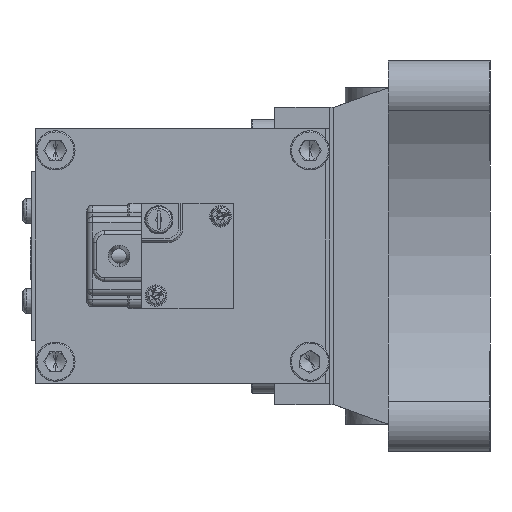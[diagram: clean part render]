
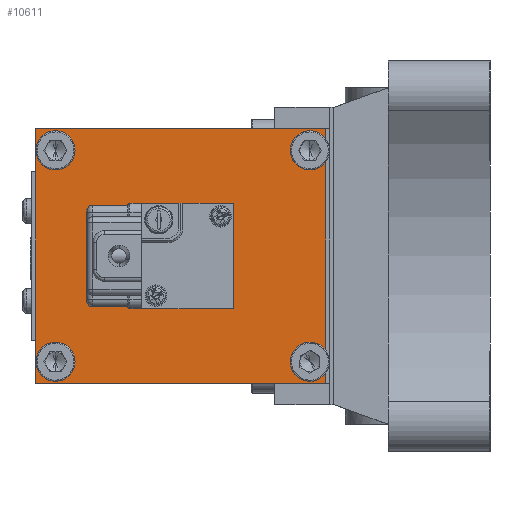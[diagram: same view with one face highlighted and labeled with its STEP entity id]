
A CAD part, left-side view. The second image highlights one B-rep face of the part: STEP entity #10611.
In plain terms, the highlighted planar face has unit normal (-1, 0, 0) as drawn and (1, 0, 0) by its records, which use the part's own axes.
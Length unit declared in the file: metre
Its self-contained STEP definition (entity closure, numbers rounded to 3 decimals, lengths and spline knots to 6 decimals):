
#427 = ORIENTED_EDGE ( 'NONE', *, *, #1078, .F. ) ;
#489 = CARTESIAN_POINT ( 'NONE',  ( 0.08, 0.002, 0. ) ) ;
#536 = DIRECTION ( 'NONE',  ( 0., 0., -1. ) ) ;
#560 = VERTEX_POINT ( 'NONE', #2664 ) ;
#745 = EDGE_CURVE ( 'NONE', #2308, #560, #5761, .T. ) ;
#808 = VERTEX_POINT ( 'NONE', #10055 ) ;
#848 = ORIENTED_EDGE ( 'NONE', *, *, #15848, .F. ) ;
#881 = CARTESIAN_POINT ( 'NONE',  ( 0.08, 0.002, -0.0325 ) ) ;
#1027 = CARTESIAN_POINT ( 'NONE',  ( 0.08, 0.071, 0.027 ) ) ;
#1078 = EDGE_CURVE ( 'NONE', #12030, #8939, #1955, .T. ) ;
#1110 = VERTEX_POINT ( 'NONE', #7494 ) ;
#1210 = CIRCLE ( 'NONE', #7725, 0.003 ) ;
#1453 = VERTEX_POINT ( 'NONE', #5061 ) ;
#1556 = ORIENTED_EDGE ( 'NONE', *, *, #15389, .F. ) ;
#1857 = VERTEX_POINT ( 'NONE', #8028 ) ;
#1955 = LINE ( 'NONE', #7438, #12715 ) ;
#2135 = AXIS2_PLACEMENT_3D ( 'NONE', #881, #10337, #2202 ) ;
#2202 = DIRECTION ( 'NONE',  ( 0., 0., 1. ) ) ;
#2236 = AXIS2_PLACEMENT_3D ( 'NONE', #15564, #6185, #14200 ) ;
#2308 = VERTEX_POINT ( 'NONE', #6946 ) ;
#2356 = DIRECTION ( 'NONE',  ( 0., 0., -1. ) ) ;
#2664 = CARTESIAN_POINT ( 'NONE',  ( 0.08, 0.006, 0.024 ) ) ;
#2709 = AXIS2_PLACEMENT_3D ( 'NONE', #12986, #4897, #14306 ) ;
#2860 = AXIS2_PLACEMENT_3D ( 'NONE', #15136, #7113, #16503 ) ;
#2898 = LINE ( 'NONE', #489, #16819 ) ;
#3168 = CARTESIAN_POINT ( 'NONE',  ( 0.08, 0.071, 0.027 ) ) ;
#3308 = DIRECTION ( 'NONE',  ( 0., -1., 0. ) ) ;
#3393 = CIRCLE ( 'NONE', #2236, 0.003 ) ;
#3756 = FACE_BOUND ( 'NONE', #7129, .T. ) ;
#3916 = ORIENTED_EDGE ( 'NONE', *, *, #6422, .F. ) ;
#4140 = VERTEX_POINT ( 'NONE', #11885 ) ;
#4229 = EDGE_CURVE ( 'NONE', #4140, #9016, #2898, .T. ) ;
#4509 = DIRECTION ( 'NONE',  ( 0., 0., -1. ) ) ;
#4678 = DIRECTION ( 'NONE',  ( 0., 0., -1. ) ) ;
#4895 = CARTESIAN_POINT ( 'NONE',  ( 0.08, 0.071, -0.027 ) ) ;
#4897 = DIRECTION ( 'NONE',  ( 1., 0., 0. ) ) ;
#4959 = VECTOR ( 'NONE', #3308, 1. ) ;
#5061 = CARTESIAN_POINT ( 'NONE',  ( 0.08, 0.071, -0.024 ) ) ;
#5174 = ORIENTED_EDGE ( 'NONE', *, *, #745, .F. ) ;
#5290 = DIRECTION ( 'NONE',  ( 1., 0., 0. ) ) ;
#5388 = ORIENTED_EDGE ( 'NONE', *, *, #12594, .F. ) ;
#5761 = CIRCLE ( 'NONE', #2860, 0.003 ) ;
#6185 = DIRECTION ( 'NONE',  ( 1., 0., 0. ) ) ;
#6279 = DIRECTION ( 'NONE',  ( 0., 0., -1. ) ) ;
#6422 = EDGE_CURVE ( 'NONE', #14245, #808, #3393, .T. ) ;
#6939 = FACE_OUTER_BOUND ( 'NONE', #8690, .T. ) ;
#6946 = CARTESIAN_POINT ( 'NONE',  ( 0.08, 0.006, 0.03 ) ) ;
#7003 = CIRCLE ( 'NONE', #8231, 0.003 ) ;
#7113 = DIRECTION ( 'NONE',  ( 1., 0., 0. ) ) ;
#7129 = EDGE_LOOP ( 'NONE', ( #848, #1556 ) ) ;
#7387 = FACE_BOUND ( 'NONE', #10588, .T. ) ;
#7438 = CARTESIAN_POINT ( 'NONE',  ( 0.08, 0.076, 0. ) ) ;
#7494 = CARTESIAN_POINT ( 'NONE',  ( 0.08, 0.071, 0.03 ) ) ;
#7522 = ORIENTED_EDGE ( 'NONE', *, *, #10951, .F. ) ;
#7721 = EDGE_LOOP ( 'NONE', ( #3916, #11402 ) ) ;
#7725 = AXIS2_PLACEMENT_3D ( 'NONE', #13348, #5290, #14669 ) ;
#7755 = CARTESIAN_POINT ( 'NONE',  ( 0.08, 0.002, 0.0325 ) ) ;
#8028 = CARTESIAN_POINT ( 'NONE',  ( 0.08, 0.071, 0.024 ) ) ;
#8177 = AXIS2_PLACEMENT_3D ( 'NONE', #16642, #8663, #536 ) ;
#8231 = AXIS2_PLACEMENT_3D ( 'NONE', #4895, #14301, #6279 ) ;
#8416 = VECTOR ( 'NONE', #14429, 1. ) ;
#8641 = ORIENTED_EDGE ( 'NONE', *, *, #4229, .F. ) ;
#8663 = DIRECTION ( 'NONE',  ( 1., 0., 0. ) ) ;
#8690 = EDGE_LOOP ( 'NONE', ( #427, #5388, #8641, #15374 ) ) ;
#8939 = VERTEX_POINT ( 'NONE', #17267 ) ;
#9016 = VERTEX_POINT ( 'NONE', #7755 ) ;
#9931 = DIRECTION ( 'NONE',  ( 0., 0., 1. ) ) ;
#10055 = CARTESIAN_POINT ( 'NONE',  ( 0.08, 0.006, -0.024 ) ) ;
#10097 = ORIENTED_EDGE ( 'NONE', *, *, #12067, .F. ) ;
#10254 = ORIENTED_EDGE ( 'NONE', *, *, #15280, .F. ) ;
#10337 = DIRECTION ( 'NONE',  ( -1., 0., 0. ) ) ;
#10444 = CARTESIAN_POINT ( 'NONE',  ( 0.08, 0.039, 0.0325 ) ) ;
#10478 = DIRECTION ( 'NONE',  ( 1., 0., 0. ) ) ;
#10492 = CIRCLE ( 'NONE', #2709, 0.003 ) ;
#10554 = FACE_BOUND ( 'NONE', #7721, .T. ) ;
#10588 = EDGE_LOOP ( 'NONE', ( #7522, #10254 ) ) ;
#10611 = ADVANCED_FACE ( 'NONE', ( #3756, #7387, #14078, #10554, #6939 ), #11564, .F. ) ;
#10753 = CIRCLE ( 'NONE', #8177, 0.003 ) ;
#10951 = EDGE_CURVE ( 'NONE', #14329, #1453, #10753, .T. ) ;
#11402 = ORIENTED_EDGE ( 'NONE', *, *, #13053, .F. ) ;
#11564 = PLANE ( 'NONE',  #2135 ) ;
#11885 = CARTESIAN_POINT ( 'NONE',  ( 0.08, 0.002, -0.0325 ) ) ;
#11976 = LINE ( 'NONE', #10444, #8416 ) ;
#12030 = VERTEX_POINT ( 'NONE', #16951 ) ;
#12067 = EDGE_CURVE ( 'NONE', #560, #2308, #1210, .T. ) ;
#12594 = EDGE_CURVE ( 'NONE', #9016, #12030, #11976, .T. ) ;
#12616 = DIRECTION ( 'NONE',  ( 1., 0., 0. ) ) ;
#12637 = EDGE_LOOP ( 'NONE', ( #10097, #5174 ) ) ;
#12696 = AXIS2_PLACEMENT_3D ( 'NONE', #1027, #10478, #2356 ) ;
#12715 = VECTOR ( 'NONE', #4678, 1. ) ;
#12832 = CARTESIAN_POINT ( 'NONE',  ( 0.08, 0.071, -0.03 ) ) ;
#12945 = EDGE_CURVE ( 'NONE', #8939, #4140, #15712, .T. ) ;
#12986 = CARTESIAN_POINT ( 'NONE',  ( 0.08, 0.006, -0.027 ) ) ;
#13001 = AXIS2_PLACEMENT_3D ( 'NONE', #3168, #12616, #4509 ) ;
#13053 = EDGE_CURVE ( 'NONE', #808, #14245, #10492, .T. ) ;
#13315 = CIRCLE ( 'NONE', #12696, 0.003 ) ;
#13348 = CARTESIAN_POINT ( 'NONE',  ( 0.08, 0.006, 0.027 ) ) ;
#13974 = CARTESIAN_POINT ( 'NONE',  ( 0.08, 0.006, -0.03 ) ) ;
#14012 = CARTESIAN_POINT ( 'NONE',  ( 0.08, 0.039, -0.0325 ) ) ;
#14078 = FACE_BOUND ( 'NONE', #12637, .T. ) ;
#14200 = DIRECTION ( 'NONE',  ( 0., 0., -1. ) ) ;
#14245 = VERTEX_POINT ( 'NONE', #13974 ) ;
#14301 = DIRECTION ( 'NONE',  ( 1., 0., 0. ) ) ;
#14306 = DIRECTION ( 'NONE',  ( 0., 0., -1. ) ) ;
#14329 = VERTEX_POINT ( 'NONE', #12832 ) ;
#14429 = DIRECTION ( 'NONE',  ( 0., 1., 0. ) ) ;
#14669 = DIRECTION ( 'NONE',  ( 0., 0., -1. ) ) ;
#14940 = CIRCLE ( 'NONE', #13001, 0.003 ) ;
#15136 = CARTESIAN_POINT ( 'NONE',  ( 0.08, 0.006, 0.027 ) ) ;
#15280 = EDGE_CURVE ( 'NONE', #1453, #14329, #7003, .T. ) ;
#15374 = ORIENTED_EDGE ( 'NONE', *, *, #12945, .F. ) ;
#15389 = EDGE_CURVE ( 'NONE', #1110, #1857, #13315, .T. ) ;
#15564 = CARTESIAN_POINT ( 'NONE',  ( 0.08, 0.006, -0.027 ) ) ;
#15712 = LINE ( 'NONE', #14012, #4959 ) ;
#15848 = EDGE_CURVE ( 'NONE', #1857, #1110, #14940, .T. ) ;
#16503 = DIRECTION ( 'NONE',  ( 0., 0., -1. ) ) ;
#16642 = CARTESIAN_POINT ( 'NONE',  ( 0.08, 0.071, -0.027 ) ) ;
#16819 = VECTOR ( 'NONE', #9931, 1. ) ;
#16951 = CARTESIAN_POINT ( 'NONE',  ( 0.08, 0.076, 0.0325 ) ) ;
#17267 = CARTESIAN_POINT ( 'NONE',  ( 0.08, 0.076, -0.0325 ) ) ;
